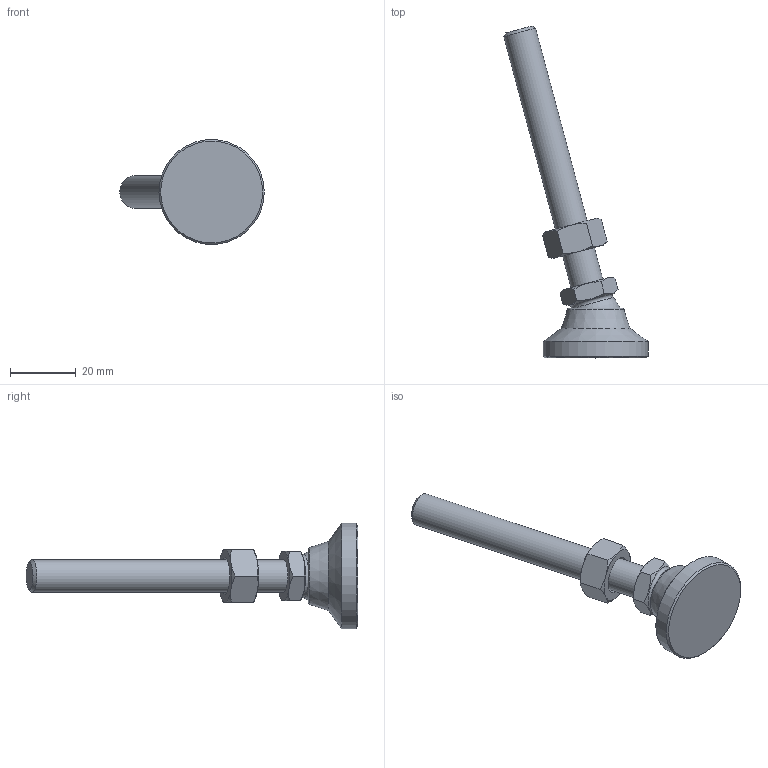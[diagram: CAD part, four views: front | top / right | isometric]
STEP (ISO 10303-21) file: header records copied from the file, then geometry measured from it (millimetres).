
FILE_DESCRIPTION( ( 'STEP AP214' ), ' ' );
FILE_NAME( 'O:/ganter_2015/teil_2/2_5/gn343_2/gn343_2_os/Levelling foot with threaded stud GN 343.2-32-M10-80-OS-(15).stp', '2015-10-26T09:07:09', ( '' ), ( '' ), ' ', 'PARTsolutions', ' ' );
FILE_SCHEMA( ( 'AUTOMOTIVE_DESIGN { 1 0 10303 214 1 1 1 1 }' ) );
Length unit declared in the file: millimetre
Products named in the file (4): Levelling foot with threaded stud GN 343.2-32-M10-80-OS-(15); _Levelling foot with threaded stud GN 343.2-32-M10-80-OS-(15)_foot; _Levelling foot with threaded stud GN 343.2-32-M10-80-OS-(15)_screw; _Stainless Steel-Levelling feet GN 343.2-32-M10-80-OS-(15)_nut
Assembly tree (3 placements, depth 2):
  Levelling foot with threaded stud GN 343.2-32-M10-80-OS-(15)
    _Levelling foot with threaded stud GN 343.2-32-M10-80-OS-(15)_foot
    _Levelling foot with threaded stud GN 343.2-32-M10-80-OS-(15)_screw
    _Stainless Steel-Levelling feet GN 343.2-32-M10-80-OS-(15)_nut
Bounding box: 43.96 x 100.99 x 32 mm (x, y, z)
Volume: 17002.9 mm3; surface area: 7336.5 mm2
Topology: 3 solids, 3 shells, 50 faces, 107 edges, 63 vertices
Faces by surface type: cone 25, plane 18, cylinder 3, torus 2, sphere 2
Full cylindrical faces by diameter (mm): 8.376 x1, 10 x1, 32 x1
Entity records: 1874 total; most frequent: CARTESIAN_POINT 468, DIRECTION 188, ORIENTED_EDGE 176, AXIS2_PLACEMENT_3D 88, EDGE_CURVE 88, EDGE_LOOP 66, VERTEX_POINT 60, FACE_OUTER_BOUND 55
